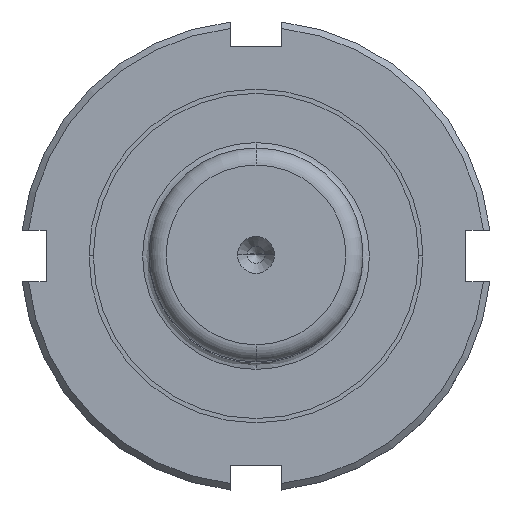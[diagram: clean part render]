
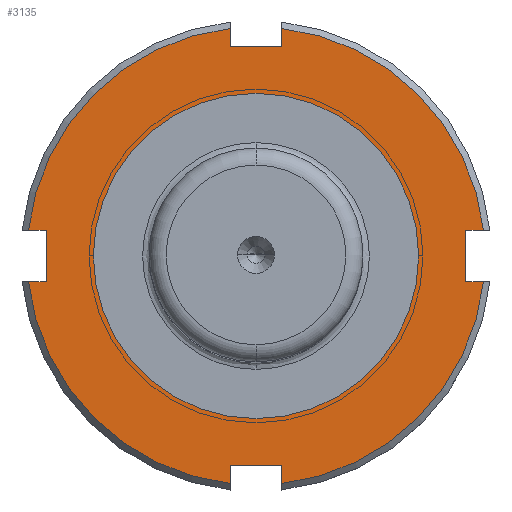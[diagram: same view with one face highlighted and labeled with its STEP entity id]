
A CAD part, top view. The second image highlights one B-rep face of the part: STEP entity #3135.
In plain terms, the highlighted planar face has unit normal (0, 0, 1).
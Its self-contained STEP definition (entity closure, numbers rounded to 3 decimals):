
#2227=CARTESIAN_POINT('',(0.0,19.0,33.0));
#2228=VERTEX_POINT('',#2227);
#2244=CARTESIAN_POINT('',(0.,-19.0,33.0));
#2245=VERTEX_POINT('',#2244);
#2252=CARTESIAN_POINT('',(0.0,0.0,33.0));
#2253=DIRECTION('',(0.0,0.0,-1.0));
#2254=DIRECTION('',(0.0,1.0,0.0));
#2255=AXIS2_PLACEMENT_3D('',#2252,#2253,#2254);
#2256=CIRCLE('',#2255,19.0);
#2257=EDGE_CURVE('',#2228,#2245,#2256,.T.);
#2292=CARTESIAN_POINT('',(-24.5,3.,33.));
#2293=VERTEX_POINT('',#2292);
#2300=CARTESIAN_POINT('',(-26.581,3.,33.));
#2301=VERTEX_POINT('',#2300);
#2302=CARTESIAN_POINT('',(-26.581,3.,33.));
#2303=DIRECTION('',(1.0,0.0,0.0));
#2304=VECTOR('',#2303,2.081);
#2305=LINE('',#2302,#2304);
#2306=EDGE_CURVE('',#2301,#2293,#2305,.T.);
#2362=CARTESIAN_POINT('',(-26.581,-3.,33.));
#2363=VERTEX_POINT('',#2362);
#2377=CARTESIAN_POINT('',(-24.5,-3.,33.));
#2378=VERTEX_POINT('',#2377);
#2379=CARTESIAN_POINT('',(-24.5,-3.,33.));
#2380=DIRECTION('',(-1.0,0.0,0.0));
#2381=VECTOR('',#2380,2.081);
#2382=LINE('',#2379,#2381);
#2383=EDGE_CURVE('',#2378,#2363,#2382,.T.);
#2414=CARTESIAN_POINT('',(-24.5,3.,33.));
#2415=DIRECTION('',(0.0,-1.0,0.0));
#2416=VECTOR('',#2415,6.0);
#2417=LINE('',#2414,#2416);
#2418=EDGE_CURVE('',#2293,#2378,#2417,.T.);
#2454=CARTESIAN_POINT('',(-3.,-24.5,33.0));
#2455=VERTEX_POINT('',#2454);
#2462=CARTESIAN_POINT('',(-3.,-26.581,33.0));
#2463=VERTEX_POINT('',#2462);
#2464=CARTESIAN_POINT('',(-3.,-26.581,33.0));
#2465=DIRECTION('',(0.0,1.0,0.0));
#2466=VECTOR('',#2465,2.081);
#2467=LINE('',#2464,#2466);
#2468=EDGE_CURVE('',#2463,#2455,#2467,.T.);
#2524=CARTESIAN_POINT('',(3.,-26.581,33.0));
#2525=VERTEX_POINT('',#2524);
#2539=CARTESIAN_POINT('',(3.,-24.5,33.0));
#2540=VERTEX_POINT('',#2539);
#2541=CARTESIAN_POINT('',(3.,-24.5,33.0));
#2542=DIRECTION('',(0.0,-1.0,0.0));
#2543=VECTOR('',#2542,2.081);
#2544=LINE('',#2541,#2543);
#2545=EDGE_CURVE('',#2540,#2525,#2544,.T.);
#2576=CARTESIAN_POINT('',(-3.,-24.5,33.0));
#2577=DIRECTION('',(1.0,0.0,0.0));
#2578=VECTOR('',#2577,6.0);
#2579=LINE('',#2576,#2578);
#2580=EDGE_CURVE('',#2455,#2540,#2579,.T.);
#2616=CARTESIAN_POINT('',(24.5,-3.,33.));
#2617=VERTEX_POINT('',#2616);
#2624=CARTESIAN_POINT('',(26.581,-3.,33.));
#2625=VERTEX_POINT('',#2624);
#2626=CARTESIAN_POINT('',(26.581,-3.,33.));
#2627=DIRECTION('',(-1.0,0.0,0.0));
#2628=VECTOR('',#2627,2.081);
#2629=LINE('',#2626,#2628);
#2630=EDGE_CURVE('',#2625,#2617,#2629,.T.);
#2686=CARTESIAN_POINT('',(26.581,3.,33.));
#2687=VERTEX_POINT('',#2686);
#2701=CARTESIAN_POINT('',(24.5,3.,33.));
#2702=VERTEX_POINT('',#2701);
#2703=CARTESIAN_POINT('',(24.5,3.,33.));
#2704=DIRECTION('',(1.0,0.0,0.0));
#2705=VECTOR('',#2704,2.081);
#2706=LINE('',#2703,#2705);
#2707=EDGE_CURVE('',#2702,#2687,#2706,.T.);
#2738=CARTESIAN_POINT('',(24.5,-3.,33.));
#2739=DIRECTION('',(0.0,1.0,0.0));
#2740=VECTOR('',#2739,6.0);
#2741=LINE('',#2738,#2740);
#2742=EDGE_CURVE('',#2617,#2702,#2741,.T.);
#2778=CARTESIAN_POINT('',(3.0,24.5,33.0));
#2779=VERTEX_POINT('',#2778);
#2786=CARTESIAN_POINT('',(3.0,26.581,33.0));
#2787=VERTEX_POINT('',#2786);
#2788=CARTESIAN_POINT('',(3.0,26.581,33.0));
#2789=DIRECTION('',(0.0,-1.0,0.0));
#2790=VECTOR('',#2789,2.081);
#2791=LINE('',#2788,#2790);
#2792=EDGE_CURVE('',#2787,#2779,#2791,.T.);
#2848=CARTESIAN_POINT('',(-3.0,26.581,33.0));
#2849=VERTEX_POINT('',#2848);
#2863=CARTESIAN_POINT('',(-3.0,24.5,33.0));
#2864=VERTEX_POINT('',#2863);
#2865=CARTESIAN_POINT('',(-3.0,24.5,33.0));
#2866=DIRECTION('',(0.0,1.0,0.0));
#2867=VECTOR('',#2866,2.081);
#2868=LINE('',#2865,#2867);
#2869=EDGE_CURVE('',#2864,#2849,#2868,.T.);
#2900=CARTESIAN_POINT('',(3.0,24.5,33.0));
#2901=DIRECTION('',(-1.0,0.0,0.0));
#2902=VECTOR('',#2901,6.0);
#2903=LINE('',#2900,#2902);
#2904=EDGE_CURVE('',#2779,#2864,#2903,.T.);
#3078=CARTESIAN_POINT('',(0.0,22.875,33.0));
#3079=DIRECTION('',(0.0,0.0,1.0));
#3080=DIRECTION('',(1.0,0.0,0.0));
#3081=AXIS2_PLACEMENT_3D('',#3078,#3079,#3080);
#3082=PLANE('',#3081);
#3083=ORIENTED_EDGE('',*,*,#2306,.T.);
#3084=ORIENTED_EDGE('',*,*,#2418,.T.);
#3085=ORIENTED_EDGE('',*,*,#2383,.T.);
#3086=CARTESIAN_POINT('',(0.0,0.0,33.0));
#3087=DIRECTION('',(0.0,0.0,-1.0));
#3088=DIRECTION('',(0.0,1.0,0.0));
#3089=AXIS2_PLACEMENT_3D('',#3086,#3087,#3088);
#3090=CIRCLE('',#3089,26.75);
#3091=EDGE_CURVE('',#2463,#2363,#3090,.T.);
#3092=ORIENTED_EDGE('',*,*,#3091,.F.);
#3093=ORIENTED_EDGE('',*,*,#2468,.T.);
#3094=ORIENTED_EDGE('',*,*,#2580,.T.);
#3095=ORIENTED_EDGE('',*,*,#2545,.T.);
#3096=CARTESIAN_POINT('',(0.0,0.0,33.0));
#3097=DIRECTION('',(0.0,0.0,-1.0));
#3098=DIRECTION('',(0.0,1.0,0.0));
#3099=AXIS2_PLACEMENT_3D('',#3096,#3097,#3098);
#3100=CIRCLE('',#3099,26.75);
#3101=EDGE_CURVE('',#2625,#2525,#3100,.T.);
#3102=ORIENTED_EDGE('',*,*,#3101,.F.);
#3103=ORIENTED_EDGE('',*,*,#2630,.T.);
#3104=ORIENTED_EDGE('',*,*,#2742,.T.);
#3105=ORIENTED_EDGE('',*,*,#2707,.T.);
#3106=CARTESIAN_POINT('',(0.0,0.0,33.0));
#3107=DIRECTION('',(0.0,0.0,-1.0));
#3108=DIRECTION('',(0.0,1.0,0.0));
#3109=AXIS2_PLACEMENT_3D('',#3106,#3107,#3108);
#3110=CIRCLE('',#3109,26.75);
#3111=EDGE_CURVE('',#2787,#2687,#3110,.T.);
#3112=ORIENTED_EDGE('',*,*,#3111,.F.);
#3113=ORIENTED_EDGE('',*,*,#2792,.T.);
#3114=ORIENTED_EDGE('',*,*,#2904,.T.);
#3115=ORIENTED_EDGE('',*,*,#2869,.T.);
#3116=CARTESIAN_POINT('',(0.0,0.0,33.0));
#3117=DIRECTION('',(0.0,0.0,-1.0));
#3118=DIRECTION('',(0.0,1.0,0.0));
#3119=AXIS2_PLACEMENT_3D('',#3116,#3117,#3118);
#3120=CIRCLE('',#3119,26.75);
#3121=EDGE_CURVE('',#2301,#2849,#3120,.T.);
#3122=ORIENTED_EDGE('',*,*,#3121,.F.);
#3123=EDGE_LOOP('',(#3083,#3084,#3085,#3092,#3093,#3094,#3095,#3102,#3103,#3104,#3105,#3112,#3113,#3114,#3115,#3122));
#3124=FACE_OUTER_BOUND('',#3123,.T.);
#3125=ORIENTED_EDGE('',*,*,#2257,.T.);
#3126=CARTESIAN_POINT('',(0.0,0.0,33.0));
#3127=DIRECTION('',(0.0,0.0,-1.0));
#3128=DIRECTION('',(0.0,1.0,0.0));
#3129=AXIS2_PLACEMENT_3D('',#3126,#3127,#3128);
#3130=CIRCLE('',#3129,19.0);
#3131=EDGE_CURVE('',#2245,#2228,#3130,.T.);
#3132=ORIENTED_EDGE('',*,*,#3131,.T.);
#3133=EDGE_LOOP('',(#3125,#3132));
#3134=FACE_BOUND('',#3133,.T.);
#3135=ADVANCED_FACE('',(#3124,#3134),#3082,.T.);
